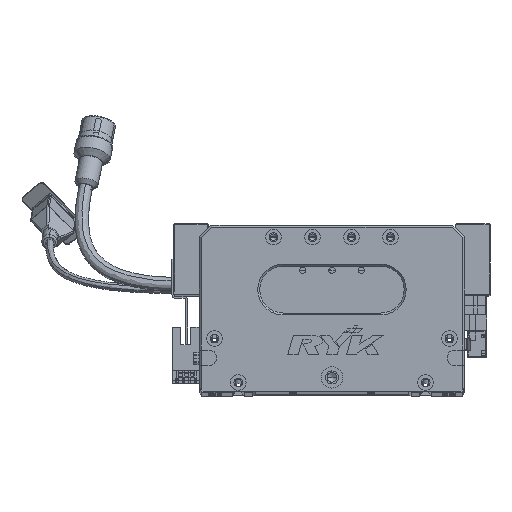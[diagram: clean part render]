
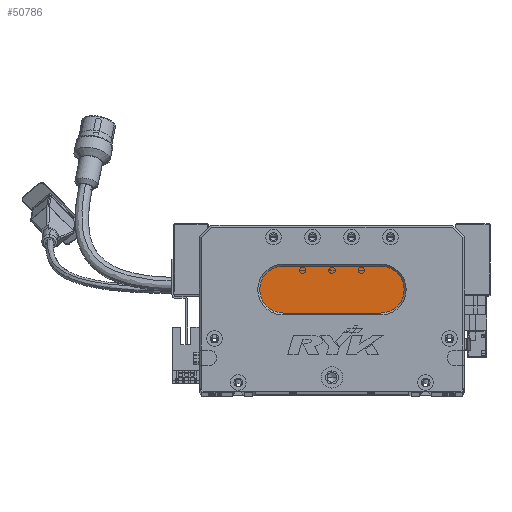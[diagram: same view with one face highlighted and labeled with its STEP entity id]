
A CAD part, top view. The second image highlights one B-rep face of the part: STEP entity #50786.
In plain terms, the highlighted planar face has unit normal (0, 0, 1) as drawn and (0, 0, -1) by its records, which use the part's own axes.
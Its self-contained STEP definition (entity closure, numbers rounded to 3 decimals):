
#1661 = AXIS2_PLACEMENT_3D ( 'NONE', #68194, #26426, #20294 ) ;
#3910 = DIRECTION ( 'NONE',  ( -1., 0., 0. ) ) ;
#6104 = CARTESIAN_POINT ( 'NONE',  ( 43., 40., 13. ) ) ;
#6461 = EDGE_CURVE ( 'NONE', #39208, #47040, #68281, .T. ) ;
#7653 = VERTEX_POINT ( 'NONE', #84534 ) ;
#11503 = EDGE_LOOP ( 'NONE', ( #65887, #62460, #46888, #22732, #56211 ) ) ;
#13497 = FACE_OUTER_BOUND ( 'NONE', #11503, .T. ) ;
#16041 = VERTEX_POINT ( 'NONE', #6104 ) ;
#16066 = CARTESIAN_POINT ( 'NONE',  ( 93., 52., 13. ) ) ;
#16278 = CARTESIAN_POINT ( 'NONE',  ( 93., 52., 13. ) ) ;
#18183 = DIRECTION ( 'NONE',  ( 1., 0., 0. ) ) ;
#20294 = DIRECTION ( 'NONE',  ( -1., 0., 0. ) ) ;
#22732 = ORIENTED_EDGE ( 'NONE', *, *, #6461, .T. ) ;
#25665 = AXIS2_PLACEMENT_3D ( 'NONE', #16066, #38595, #53570 ) ;
#26426 = DIRECTION ( 'NONE',  ( 0., 0., -1. ) ) ;
#26606 = LINE ( 'NONE', #80442, #29944 ) ;
#29944 = VECTOR ( 'NONE', #18183, 1000. ) ;
#30773 = CARTESIAN_POINT ( 'NONE',  ( 43., 52., 13. ) ) ;
#31229 = EDGE_CURVE ( 'NONE', #44757, #16041, #89750, .T. ) ;
#31337 = PLANE ( 'NONE',  #25665 ) ;
#33245 = DIRECTION ( 'NONE',  ( -1., 0., 0. ) ) ;
#38595 = DIRECTION ( 'NONE',  ( 0., 0., -1. ) ) ;
#39208 = VERTEX_POINT ( 'NONE', #59368 ) ;
#40216 = CARTESIAN_POINT ( 'NONE',  ( 93., 40., 13. ) ) ;
#40520 = CARTESIAN_POINT ( 'NONE',  ( 93., 40., 13. ) ) ;
#44757 = VERTEX_POINT ( 'NONE', #40216 ) ;
#45233 = CIRCLE ( 'NONE', #59531, 12. ) ;
#46888 = ORIENTED_EDGE ( 'NONE', *, *, #82908, .T. ) ;
#47040 = VERTEX_POINT ( 'NONE', #67615 ) ;
#50786 = ADVANCED_FACE ( 'NONE', ( #13497 ), #31337, .T. ) ;
#52763 = AXIS2_PLACEMENT_3D ( 'NONE', #30773, #72570, #3910 ) ;
#53570 = DIRECTION ( 'NONE',  ( -1., 0., 0. ) ) ;
#56211 = ORIENTED_EDGE ( 'NONE', *, *, #87821, .T. ) ;
#59368 = CARTESIAN_POINT ( 'NONE',  ( 31., 52., 13. ) ) ;
#59531 = AXIS2_PLACEMENT_3D ( 'NONE', #16278, #65368, #65066 ) ;
#61125 = EDGE_CURVE ( 'NONE', #7653, #44757, #45233, .T. ) ;
#62460 = ORIENTED_EDGE ( 'NONE', *, *, #31229, .T. ) ;
#65066 = DIRECTION ( 'NONE',  ( -1., 0., 0. ) ) ;
#65368 = DIRECTION ( 'NONE',  ( 0., 0., -1. ) ) ;
#65887 = ORIENTED_EDGE ( 'NONE', *, *, #61125, .T. ) ;
#67615 = CARTESIAN_POINT ( 'NONE',  ( 43., 64., 13. ) ) ;
#68194 = CARTESIAN_POINT ( 'NONE',  ( 43., 52., 13. ) ) ;
#68281 = CIRCLE ( 'NONE', #1661, 12. ) ;
#70543 = CIRCLE ( 'NONE', #52763, 12. ) ;
#72570 = DIRECTION ( 'NONE',  ( 0., 0., -1. ) ) ;
#78782 = VECTOR ( 'NONE', #33245, 1000. ) ;
#80442 = CARTESIAN_POINT ( 'NONE',  ( 93., 64., 13. ) ) ;
#82908 = EDGE_CURVE ( 'NONE', #16041, #39208, #70543, .T. ) ;
#84534 = CARTESIAN_POINT ( 'NONE',  ( 93., 64., 13. ) ) ;
#87821 = EDGE_CURVE ( 'NONE', #47040, #7653, #26606, .T. ) ;
#89750 = LINE ( 'NONE', #40520, #78782 ) ;
